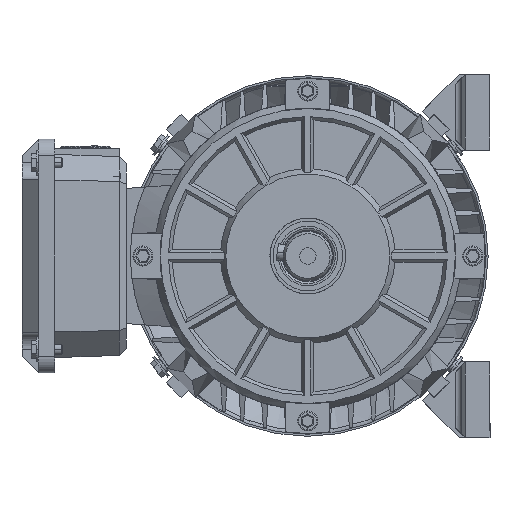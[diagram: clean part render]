
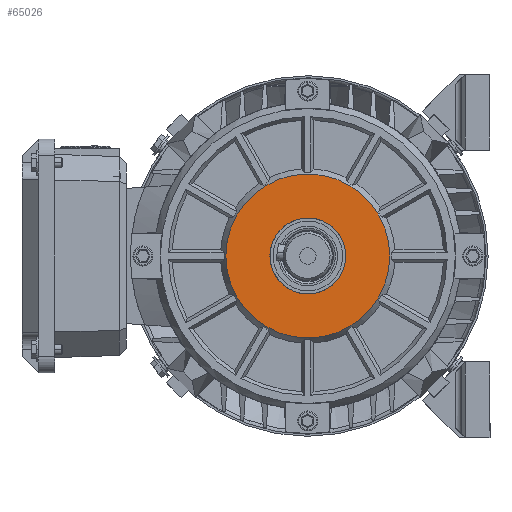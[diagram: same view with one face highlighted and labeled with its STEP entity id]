
A CAD part, left-side view. The second image highlights one B-rep face of the part: STEP entity #65026.
In plain terms, the highlighted planar face has unit normal (-1, 0, 0).
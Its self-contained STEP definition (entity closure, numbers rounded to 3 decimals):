
#63812 = EDGE_CURVE ( 'NONE', #63813, #63814, #89325, .T. ) ;
#63813 = VERTEX_POINT ( 'NONE', #89321 ) ;
#63814 = VERTEX_POINT ( 'NONE', #89320 ) ;
#63972 = VERTEX_POINT ( 'NONE', #89512 ) ;
#63974 = VERTEX_POINT ( 'NONE', #89511 ) ;
#64082 = EDGE_CURVE ( 'NONE', #63972, #63974, #89624, .T. ) ;
#65022 = EDGE_CURVE ( 'NONE', #63974, #63972, #90853, .T. ) ;
#65026 = ADVANCED_FACE ( 'NONE', ( #90848, #90847 ), #90846, .F. ) ;
#65028 = EDGE_LOOP ( 'NONE', ( #65029, #65030 ) ) ;
#65029 = ORIENTED_EDGE ( 'NONE', *, *, #65022, .F. ) ;
#65030 = ORIENTED_EDGE ( 'NONE', *, *, #64082, .F. ) ;
#65032 = EDGE_LOOP ( 'NONE', ( #65033, #65141 ) ) ;
#65033 = ORIENTED_EDGE ( 'NONE', *, *, #65140, .T. ) ;
#65140 = EDGE_CURVE ( 'NONE', #63814, #63813, #90986, .T. ) ;
#65141 = ORIENTED_EDGE ( 'NONE', *, *, #63812, .T. ) ;
#89320 = CARTESIAN_POINT ( 'NONE',  ( 0., 0., -40. ) ) ;
#89321 = CARTESIAN_POINT ( 'NONE',  ( 0., 0., 40. ) ) ;
#89322 = DIRECTION ( 'NONE',  ( 0., 0., 1. ) ) ;
#89323 = DIRECTION ( 'NONE',  ( -1., 0., 0. ) ) ;
#89324 = AXIS2_PLACEMENT_3D ( 'NONE', #89329, #89323, #89322 ) ;
#89325 = CIRCLE ( 'NONE', #89324, 40. ) ;
#89329 = CARTESIAN_POINT ( 'NONE',  ( 0., 0., 0. ) ) ;
#89511 = CARTESIAN_POINT ( 'NONE',  ( 0., 0., 18.5 ) ) ;
#89512 = CARTESIAN_POINT ( 'NONE',  ( 0., 0., -18.5 ) ) ;
#89624 = CIRCLE ( 'NONE', #89676, 18.5 ) ;
#89673 = DIRECTION ( 'NONE',  ( 0., 0., 1. ) ) ;
#89674 = DIRECTION ( 'NONE',  ( -1., 0., 0. ) ) ;
#89675 = CARTESIAN_POINT ( 'NONE',  ( 0., 0., 0. ) ) ;
#89676 = AXIS2_PLACEMENT_3D ( 'NONE', #89675, #89674, #89673 ) ;
#90841 = DIRECTION ( 'NONE',  ( 0., 0., -1. ) ) ;
#90842 = DIRECTION ( 'NONE',  ( 1., 0., 0. ) ) ;
#90843 = AXIS2_PLACEMENT_3D ( 'NONE', #90845, #90842, #90841 ) ;
#90845 = CARTESIAN_POINT ( 'NONE',  ( 0., 18.5, 0. ) ) ;
#90846 = PLANE ( 'NONE',  #90843 ) ;
#90847 = FACE_OUTER_BOUND ( 'NONE', #65032, .T. ) ;
#90848 = FACE_BOUND ( 'NONE', #65028, .T. ) ;
#90849 = DIRECTION ( 'NONE',  ( 0., 0., 1. ) ) ;
#90850 = DIRECTION ( 'NONE',  ( -1., 0., 0. ) ) ;
#90851 = CARTESIAN_POINT ( 'NONE',  ( 0., 0., 0. ) ) ;
#90852 = AXIS2_PLACEMENT_3D ( 'NONE', #90851, #90850, #90849 ) ;
#90853 = CIRCLE ( 'NONE', #90852, 18.5 ) ;
#90983 = DIRECTION ( 'NONE',  ( 0., 0., 1. ) ) ;
#90984 = DIRECTION ( 'NONE',  ( -1., 0., 0. ) ) ;
#90985 = AXIS2_PLACEMENT_3D ( 'NONE', #90993, #90984, #90983 ) ;
#90986 = CIRCLE ( 'NONE', #90985, 40. ) ;
#90993 = CARTESIAN_POINT ( 'NONE',  ( 0., 0., 0. ) ) ;
